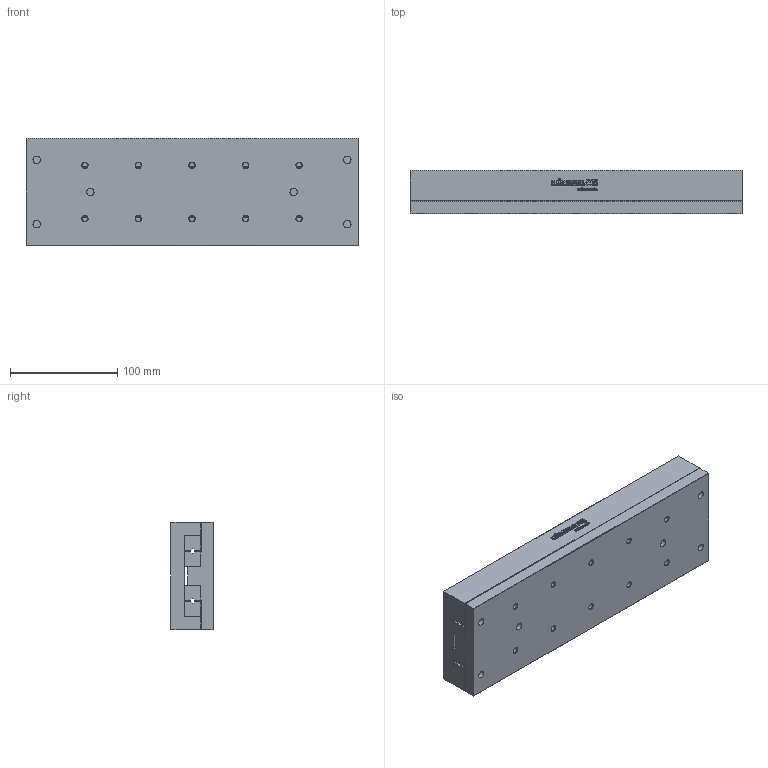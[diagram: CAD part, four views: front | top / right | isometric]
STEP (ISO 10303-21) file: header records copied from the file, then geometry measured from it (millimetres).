
FILE_DESCRIPTION(/* description */ ('STEP AP214'),/* implementation_level */ '2;1');
FILE_NAME(/* name */ 'NKL 6-310(0)',/* time_stamp */ '2025-04-24T11:41:24+02:00',/* author */ ('License CC BY-ND 4.0'),/* organization */ ('CADENAS'),/* preprocessor_version */ 'ST-DEVELOPER v19.3',/* originating_system */ 'PARTsolutions',/* authorisation */ ' ');
FILE_SCHEMA (('AUTOMOTIVE_DESIGN {1 0 10303 214 3 1 1}'));
Length unit declared in the file: millimetre
Products named in the file (3): NKL 6-310(0); NKL 6-310_1; NKL 6-310_2
Assembly tree (2 placements, depth 2):
  NKL 6-310(0)
    NKL 6-310_1
    NKL 6-310_2
Bounding box: 310 x 40 x 100 mm (x, y, z)
Volume: 1183618.3 mm3; surface area: 218265.2 mm2
Topology: 2 solids, 2 shells, 659 faces, 1832 edges, 1188 vertices
Faces by surface type: cylinder 324, plane 295, cone 40
Full cylindrical faces by diameter (mm): 4.917 x20, 7 x6, 15 x6
Entity records: 20813 total; most frequent: DIRECTION 3772, CARTESIAN_POINT 3562, ORIENTED_EDGE 3472, EDGE_CURVE 1736, AXIS2_PLACEMENT_3D 1374, VERTEX_POINT 1164, LINE 1024, VECTOR 1024
